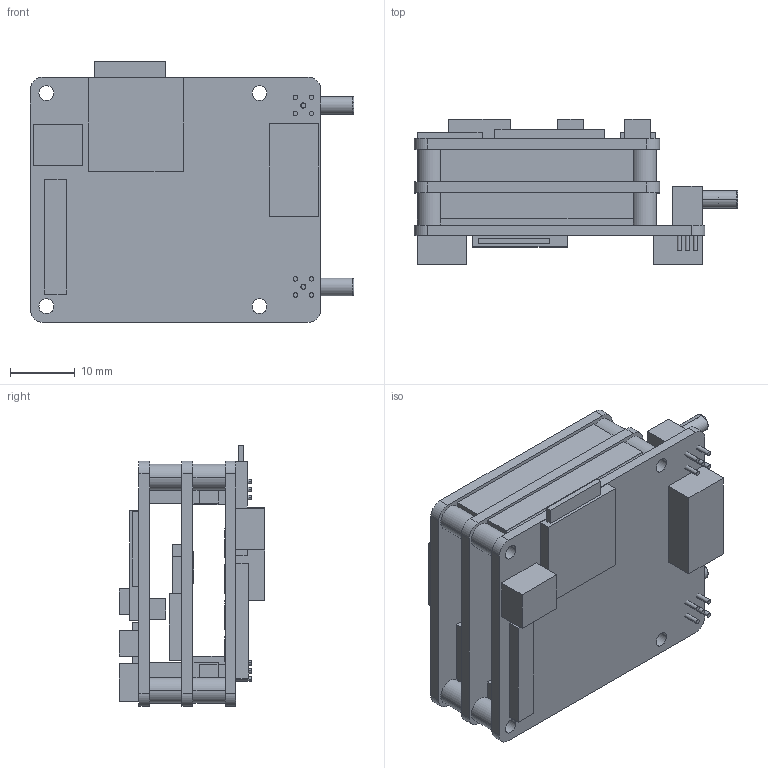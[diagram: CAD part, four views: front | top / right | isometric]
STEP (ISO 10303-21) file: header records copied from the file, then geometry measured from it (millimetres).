
FILE_DESCRIPTION((''),'2;1');
FILE_NAME('GENZONGQI_ASM','2021-10-27T',('Administrator'),(''),'CREO PARAMETRIC BY PTC INC, 2014050','CREO PARAMETRIC BY PTC INC, 2014050','');
FILE_SCHEMA(('CONFIG_CONTROL_DESIGN'));
Length unit declared in the file: millimetre
Products named in the file (7): BOARD_FPGA_3; BOARD_INTERFACE_3; YUANZHU_3; BAN3_4; SSMB_JWHD_3; BOX_ASM_5_ASM; GENZONGQI_ASM
Assembly tree (14 placements, depth 3):
  GENZONGQI_ASM
    BOX_ASM_5_ASM
      BOARD_FPGA_3
      BOARD_INTERFACE_3
      YUANZHU_3  x8
      BAN3_4
      SSMB_JWHD_3  x2
Bounding box: 50.1 x 22.5 x 40.4 mm (x, y, z)
Volume: 17210.6 mm3; surface area: 15226.3 mm2
Topology: 13 solids, 13 shells, 631 faces, 1654 edges, 1100 vertices
Faces by surface type: plane 519, cylinder 104, torus 8
Entity records: 17550 total; most frequent: CARTESIAN_POINT 3092, ORIENTED_EDGE 3004, DIRECTION 2810, EDGE_CURVE 1502, VECTOR 1374, LINE 1374, VERTEX_POINT 1000, AXIS2_PLACEMENT_3D 718
